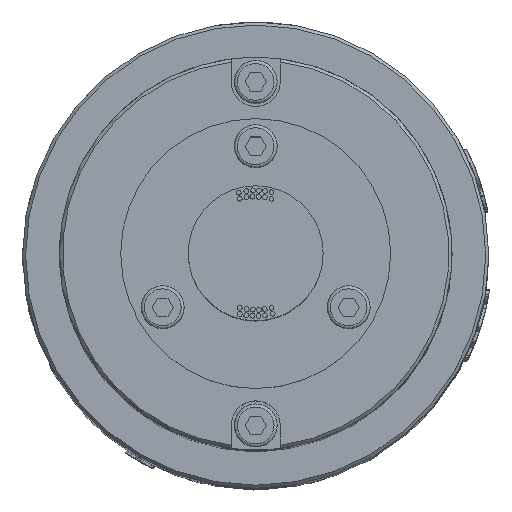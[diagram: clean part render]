
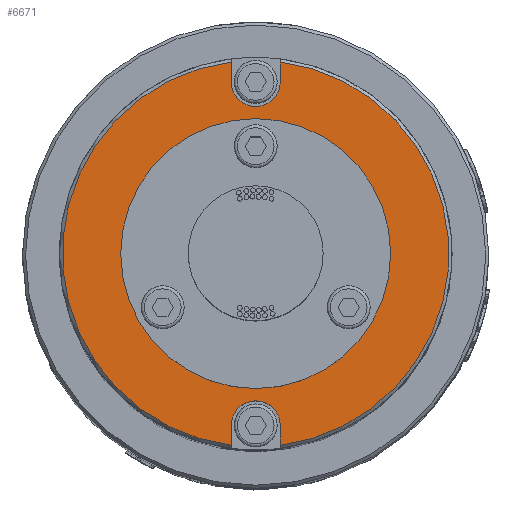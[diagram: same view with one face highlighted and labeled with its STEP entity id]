
A CAD part, top view. The second image highlights one B-rep face of the part: STEP entity #6671.
In plain terms, the highlighted planar face has unit normal (0, 0, 1).
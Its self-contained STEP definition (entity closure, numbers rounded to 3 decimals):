
#1422=LINE('',#49067,#3223);
#1423=LINE('',#49071,#3224);
#1424=LINE('',#49075,#3225);
#1425=LINE('',#49079,#3226);
#3223=VECTOR('',#30066,1.);
#3224=VECTOR('',#30069,1.);
#3225=VECTOR('',#30072,1.);
#3226=VECTOR('',#30075,1.);
#6671=ADVANCED_FACE('',(#8653,#8654),#7662,.T.);
#7662=PLANE('',#24410);
#8653=FACE_BOUND('',#10636,.T.);
#8654=FACE_BOUND('',#10637,.T.);
#10636=EDGE_LOOP('',(#16398,#16399,#16400,#16401,#16402,#16403,#16404,#16405));
#10637=EDGE_LOOP('',(#16406));
#16398=ORIENTED_EDGE('',*,*,#21582,.T.);
#16399=ORIENTED_EDGE('',*,*,#21583,.T.);
#16400=ORIENTED_EDGE('',*,*,#21584,.T.);
#16401=ORIENTED_EDGE('',*,*,#21585,.T.);
#16402=ORIENTED_EDGE('',*,*,#21586,.T.);
#16403=ORIENTED_EDGE('',*,*,#21587,.T.);
#16404=ORIENTED_EDGE('',*,*,#21588,.T.);
#16405=ORIENTED_EDGE('',*,*,#21589,.T.);
#16406=ORIENTED_EDGE('',*,*,#21532,.F.);
#18621=VERTEX_POINT('',#48914);
#18671=VERTEX_POINT('',#49065);
#18672=VERTEX_POINT('',#49066);
#18673=VERTEX_POINT('',#49068);
#18674=VERTEX_POINT('',#49070);
#18675=VERTEX_POINT('',#49072);
#18676=VERTEX_POINT('',#49074);
#18677=VERTEX_POINT('',#49076);
#18678=VERTEX_POINT('',#49078);
#21532=EDGE_CURVE('',#18621,#18621,#22266,.T.);
#21582=EDGE_CURVE('',#18671,#18672,#22316,.T.);
#21583=EDGE_CURVE('',#18672,#18673,#1422,.T.);
#21584=EDGE_CURVE('',#18673,#18674,#22317,.T.);
#21585=EDGE_CURVE('',#18674,#18675,#1423,.T.);
#21586=EDGE_CURVE('',#18675,#18676,#22318,.T.);
#21587=EDGE_CURVE('',#18676,#18677,#1424,.T.);
#21588=EDGE_CURVE('',#18677,#18678,#22319,.T.);
#21589=EDGE_CURVE('',#18678,#18671,#1425,.T.);
#22266=CIRCLE('',#24305,22.);
#22316=CIRCLE('',#24406,31.5);
#22317=CIRCLE('',#24407,4.);
#22318=CIRCLE('',#24408,31.5);
#22319=CIRCLE('',#24409,4.);
#24305=AXIS2_PLACEMENT_3D('',#48913,#29862,#29863);
#24406=AXIS2_PLACEMENT_3D('',#49064,#30064,#30065);
#24407=AXIS2_PLACEMENT_3D('',#49069,#30067,#30068);
#24408=AXIS2_PLACEMENT_3D('',#49073,#30070,#30071);
#24409=AXIS2_PLACEMENT_3D('',#49077,#30073,#30074);
#24410=AXIS2_PLACEMENT_3D('',#49080,#30076,#30077);
#29862=DIRECTION('',(0.,0.,1.));
#29863=DIRECTION('',(1.,0.,0.));
#30064=DIRECTION('',(0.,0.,1.));
#30065=DIRECTION('',(1.,0.,0.));
#30066=DIRECTION('',(0.,1.,0.));
#30067=DIRECTION('',(0.,0.,-1.));
#30068=DIRECTION('',(1.,0.,0.));
#30069=DIRECTION('',(0.,-1.,0.));
#30070=DIRECTION('',(0.,0.,1.));
#30071=DIRECTION('',(1.,0.,0.));
#30072=DIRECTION('',(0.,-1.,0.));
#30073=DIRECTION('',(0.,0.,-1.));
#30074=DIRECTION('',(-1.,0.,0.));
#30075=DIRECTION('',(0.,1.,0.));
#30076=DIRECTION('',(0.,0.,1.));
#30077=DIRECTION('',(1.,0.,0.));
#48913=CARTESIAN_POINT('',(0.,0.,303.));
#48914=CARTESIAN_POINT('',(22.,0.,303.));
#49064=CARTESIAN_POINT('',(0.,0.,303.));
#49065=CARTESIAN_POINT('',(-4.,31.245,303.));
#49066=CARTESIAN_POINT('',(-4.,-31.245,303.));
#49067=CARTESIAN_POINT('',(-4.,-30.65,303.));
#49068=CARTESIAN_POINT('',(-4.,-28.,303.));
#49069=CARTESIAN_POINT('',(0.,-28.,303.));
#49070=CARTESIAN_POINT('',(4.,-28.,303.));
#49071=CARTESIAN_POINT('',(4.,-30.65,303.));
#49072=CARTESIAN_POINT('',(4.,-31.245,303.));
#49073=CARTESIAN_POINT('',(0.,0.,303.));
#49074=CARTESIAN_POINT('',(4.,31.245,303.));
#49075=CARTESIAN_POINT('',(4.,30.65,303.));
#49076=CARTESIAN_POINT('',(4.,28.,303.));
#49077=CARTESIAN_POINT('',(0.,28.,303.));
#49078=CARTESIAN_POINT('',(-4.,28.,303.));
#49079=CARTESIAN_POINT('',(-4.,30.65,303.));
#49080=CARTESIAN_POINT('',(0.,0.,303.));
